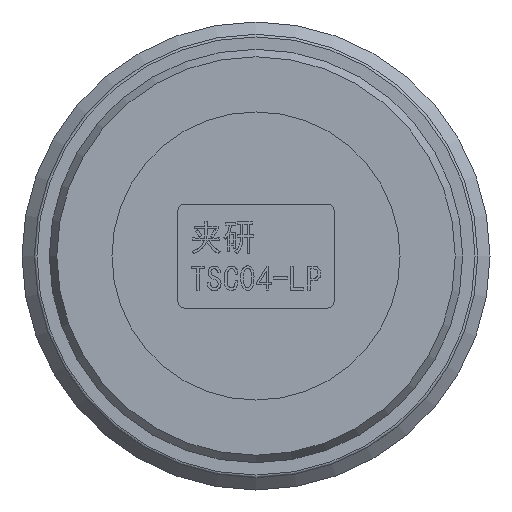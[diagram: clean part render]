
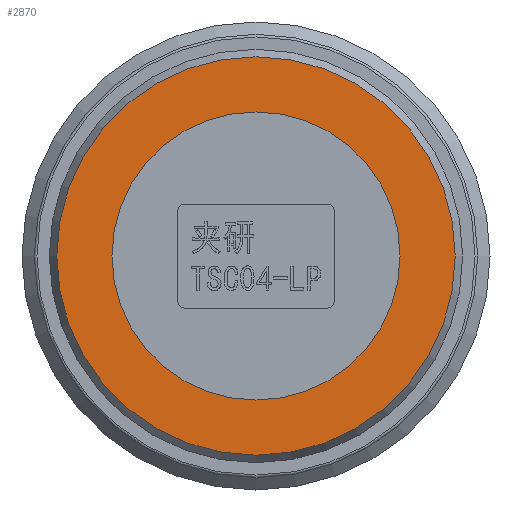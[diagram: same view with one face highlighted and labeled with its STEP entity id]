
A CAD part, front view. The second image highlights one B-rep face of the part: STEP entity #2870.
In plain terms, the highlighted planar face has unit normal (0, -1, 0).
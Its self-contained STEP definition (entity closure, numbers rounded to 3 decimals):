
#1605=PLANE('',#5918);
#2870=ADVANCED_FACE('',(#3138,#3139),#1605,.T.);
#3138=FACE_BOUND('',#3263,.T.);
#3139=FACE_BOUND('',#3264,.T.);
#3263=EDGE_LOOP('',(#3670));
#3264=EDGE_LOOP('',(#3671));
#3670=ORIENTED_EDGE('',*,*,#5176,.T.);
#3671=ORIENTED_EDGE('',*,*,#5174,.F.);
#4746=VERTEX_POINT('',#7207);
#4748=VERTEX_POINT('',#7212);
#5174=EDGE_CURVE('',#4746,#4746,#5759,.T.);
#5176=EDGE_CURVE('',#4748,#4748,#5761,.T.);
#5759=CIRCLE('',#5875,11.08);
#5761=CIRCLE('',#5878,15.325);
#5875=AXIS2_PLACEMENT_3D('',#7206,#6245,#6246);
#5878=AXIS2_PLACEMENT_3D('',#7211,#6251,#6252);
#5918=AXIS2_PLACEMENT_3D('',#7531,#6343,#6344);
#6245=DIRECTION('',(0.,-1.,0.));
#6246=DIRECTION('',(0.,0.,-1.));
#6251=DIRECTION('',(0.,-1.,0.));
#6252=DIRECTION('',(0.,0.,-1.));
#6343=DIRECTION('',(0.,-1.,0.));
#6344=DIRECTION('',(0.,0.,1.));
#7206=CARTESIAN_POINT('',(-14.168,0.3,0.));
#7207=CARTESIAN_POINT('',(-14.168,0.3,-11.08));
#7211=CARTESIAN_POINT('',(-14.168,0.3,0.));
#7212=CARTESIAN_POINT('',(-14.168,0.3,-15.325));
#7531=CARTESIAN_POINT('',(-25.248,0.3,0.));
